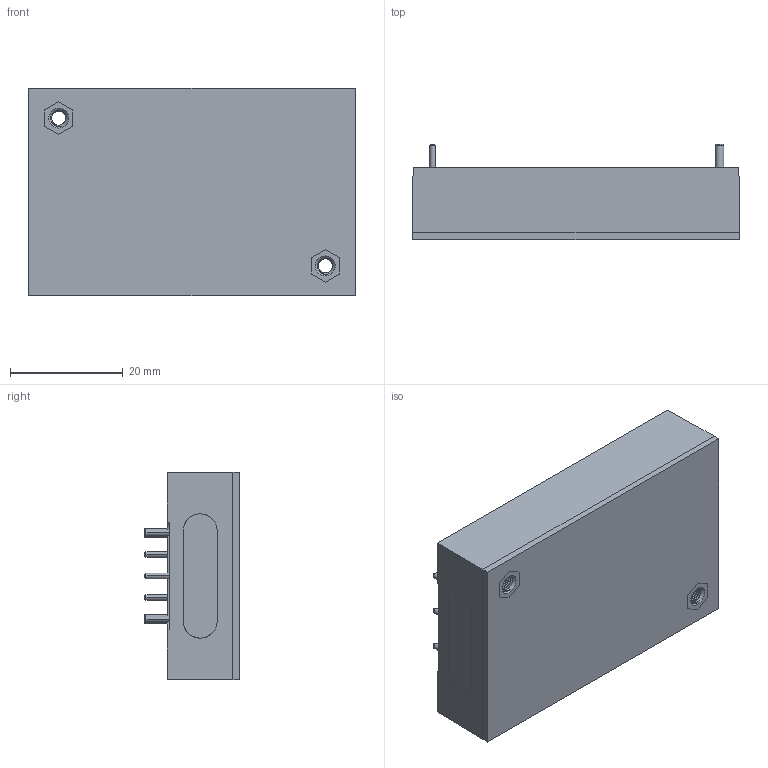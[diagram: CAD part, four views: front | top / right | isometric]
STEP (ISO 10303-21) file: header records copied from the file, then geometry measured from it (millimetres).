
FILE_DESCRIPTION (( 'STEP AP203' ), '1' );
FILE_NAME ('CQB60W-110S.STEP', '2017-06-06T04:04:02', ( 'cincon' ), ( '' ), 'SwSTEP 2.0', 'SolidWorks 2017', '' );
FILE_SCHEMA (( 'CONFIG_CONTROL_DESIGN' ));
Length unit declared in the file: millimetre
Products named in the file (6): CQB100-110S 鋁板(M-C528-01-J)銅柱 M3x12.7mm; CQB100-110S 鋁板(M-C528-01-J)G6611370101 G6611380101; CQB100-110S 圓PIN加灌膠 104,08,26; PKQ75 CASE(M-C116-03-M)G5113710012,G5119510012(CQB100-110S)_兩孔; CQB60W-110S
Assembly tree (6 placements, depth 3):
  CQB60W-110S
    CQB100-110S 鋁板(M-C528-01-J)G6611370101 G6611380101
      CQB100-110S 鋁板(M-C528-01-J)G6611370101 G6611380101
      CQB100-110S 鋁板(M-C528-01-J)銅柱 M3x12.7mm  x2
    CQB100-110S 圓PIN加灌膠 104,08,26
    PKQ75 CASE(M-C116-03-M)G5113710012,G5119510012(CQB100-110S)_兩孔
Bounding box: 57.9 x 16.9 x 36.8 mm (x, y, z)
Volume: 27011.4 mm3; surface area: 19648.2 mm2
Topology: 5 solids, 5 shells, 292 faces, 786 edges, 518 vertices
Faces by surface type: cylinder 138, plane 96, cone 50, bspline 4, torus 4
Entity records: 9980 total; most frequent: CARTESIAN_POINT 3931, ORIENTED_EDGE 1184, DIRECTION 1084, EDGE_CURVE 592, AXIS2_PLACEMENT_3D 390, VERTEX_POINT 389, VECTOR 304, LINE 304
